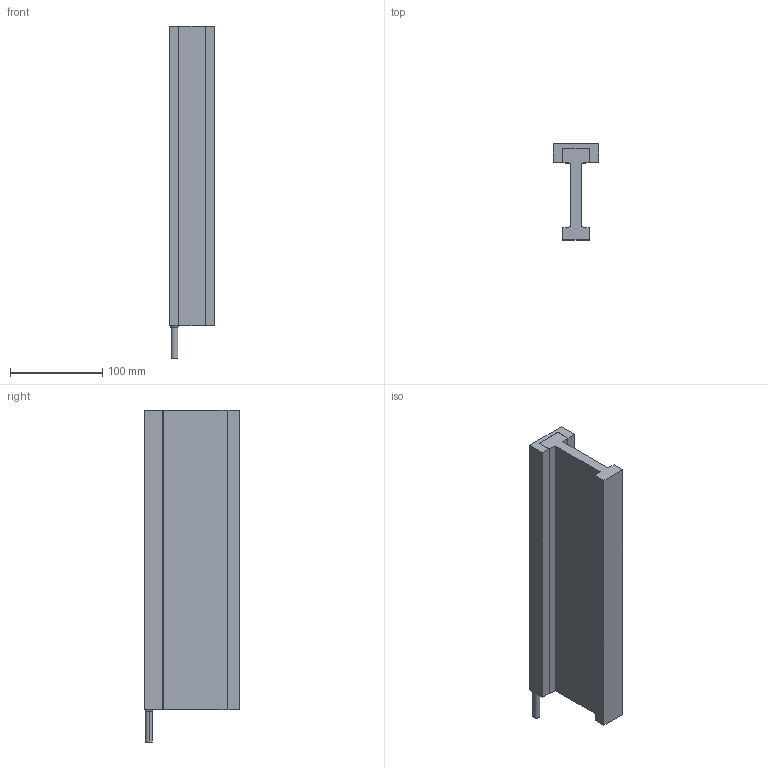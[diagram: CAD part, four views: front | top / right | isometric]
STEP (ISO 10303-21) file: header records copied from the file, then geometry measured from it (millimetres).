
FILE_DESCRIPTION (( 'STEP AP214' ), '1' );
FILE_NAME ('DX65F-C5-NH.step', '2022-09-22T03:41:57', ( '' ), ( '' ), 'SwSTEP 2.0', 'SolidWorks 2020', '' );
FILE_SCHEMA (( 'AUTOMOTIVE_DESIGN' ));
Length unit declared in the file: millimetre
Products named in the file (1): DX65F-C5-NH
Bounding box: 49 x 104 x 360 mm (x, y, z)
Volume: 696656.4 mm3; surface area: 155706.2 mm2
Topology: 3 solids, 3 shells, 93 faces, 224 edges, 128 vertices
Faces by surface type: cylinder 36, plane 31, cone 24, torus 2
Entity records: 3599 total; most frequent: DIRECTION 462, CARTESIAN_POINT 422, ORIENTED_EDGE 400, EDGE_CURVE 200, AXIS2_PLACEMENT_3D 168, VERTEX_POINT 128, VECTOR 126, LINE 126
